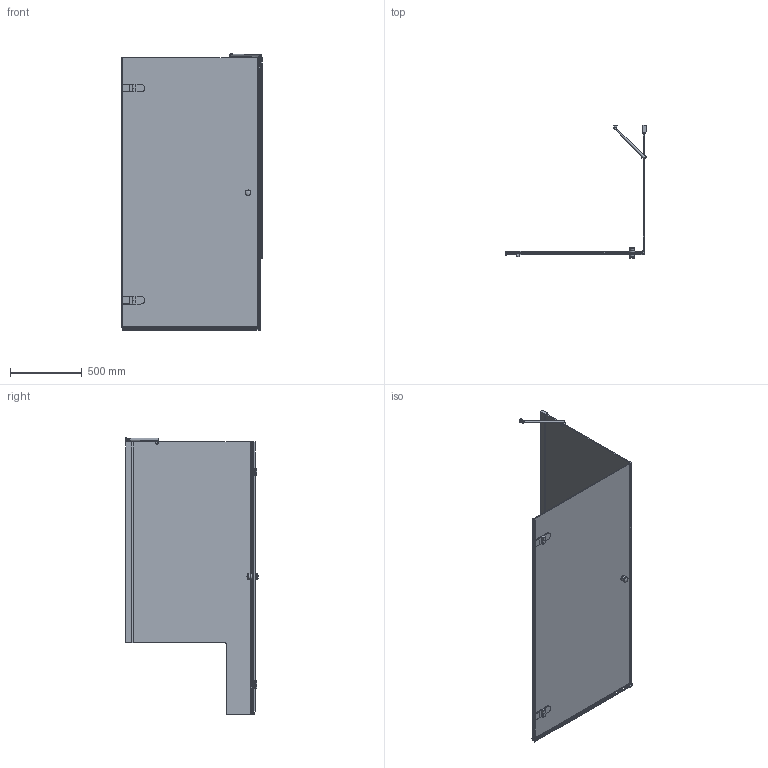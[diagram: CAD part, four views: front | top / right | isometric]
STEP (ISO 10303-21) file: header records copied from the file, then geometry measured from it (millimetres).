
FILE_DESCRIPTION(/* description */ (''),/* implementation_level */ '2;1');
FILE_NAME(/* name */ 'E:\Работа\Сергей\Душевые кабинки\! Работа\LUX SQUARE GK-002V1P-2511\LUX SQUARE GK-002V1P-2511 левая модель\LUX SQUARE GK-002V1P-2511 ЛЕВАЯ-3D.stp',/* time_stamp */ '2017-06-08T18:01:14+03:00',/* author */ ('PC'),/* organization */ (''),/* preprocessor_version */ 'ST-DEVELOPER v15.2',/* originating_system */ 'Autodesk Inventor 2014',/* authorisation */ '');
FILE_SCHEMA (('AUTOMOTIVE_DESIGN { 1 0 10303 214 3 1 1 }'));
Length unit declared in the file: millimetre
Products named in the file (1): LUX SQUARE GK-002V1P-2511 ЛЕВАЯ-
3D
Bounding box: 980.3 x 927.14 x 1931.49 mm (x, y, z)
Volume: 23352622.1 mm3; surface area: 6681281.9 mm2
Topology: 4 solids, 6 shells, 521 faces, 1272 edges, 777 vertices
Faces by surface type: plane 377, cylinder 120, torus 15, sphere 5, bspline 4
Full cylindrical faces by diameter (mm): 12 x1, 15 x1, 20 x2, 26 x1, 38 x4
Entity records: 15742 total; most frequent: CARTESIAN_POINT 3032, DIRECTION 2509, ORIENTED_EDGE 2494, EDGE_CURVE 1247, LINE 935, VECTOR 935, AXIS2_PLACEMENT_3D 787, VERTEX_POINT 767
